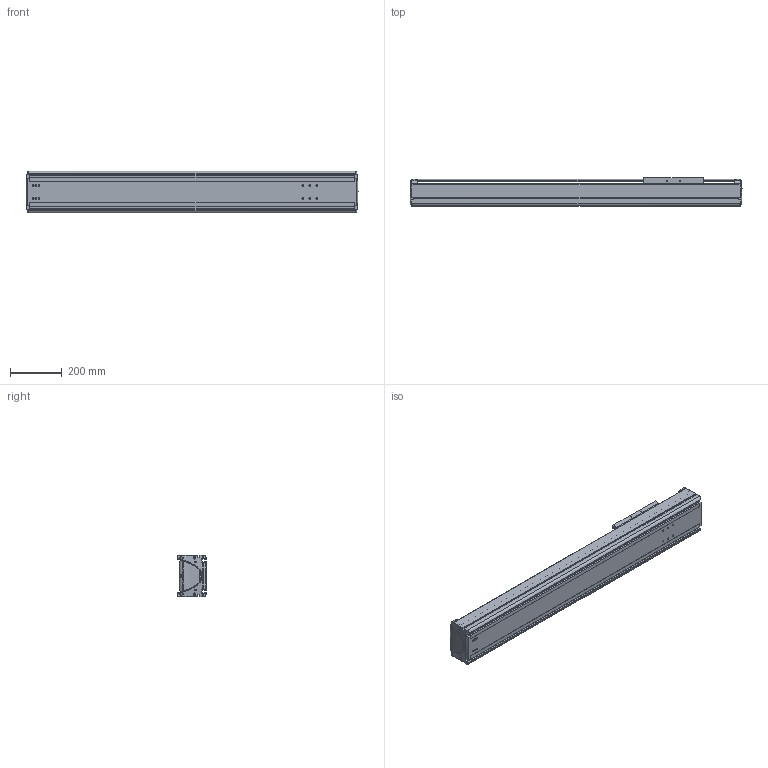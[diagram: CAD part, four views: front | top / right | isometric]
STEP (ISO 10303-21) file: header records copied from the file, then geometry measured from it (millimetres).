
FILE_DESCRIPTION((''),'2;1');
FILE_NAME('BE50G-ST-L_N-85_IGS_PRT','2017-06-18T',(' '),(''),'PRO/ENGINEER BY PARAMETRIC TECHNOLOGY CORPORATION, 2015030','PRO/ENGINEER BY PARAMETRIC TECHNOLOGY CORPORATION, 2015030','');
FILE_SCHEMA(('CONFIG_CONTROL_DESIGN'));
Length unit declared in the file: millimetre
Products named in the file (1): BE50G-ST-L_N-85_IGS_PRT
Bounding box: 1279.98 x 110 x 160 mm (x, y, z)
Volume: 5844921.6 mm3; surface area: 1977199 mm2
Topology: 2 solids, 89 shells, 1654 faces, 4410 edges, 2823 vertices
Faces by surface type: cylinder 722, plane 627, bspline 102, torus 87, cone 76, sphere 40
Entity records: 56989 total; most frequent: CARTESIAN_POINT 16358, ORIENTED_EDGE 8380, DIRECTION 8304, EDGE_CURVE 4364, AXIS2_PLACEMENT_3D 3100, VERTEX_POINT 2811, VECTOR 2104, LINE 2104
